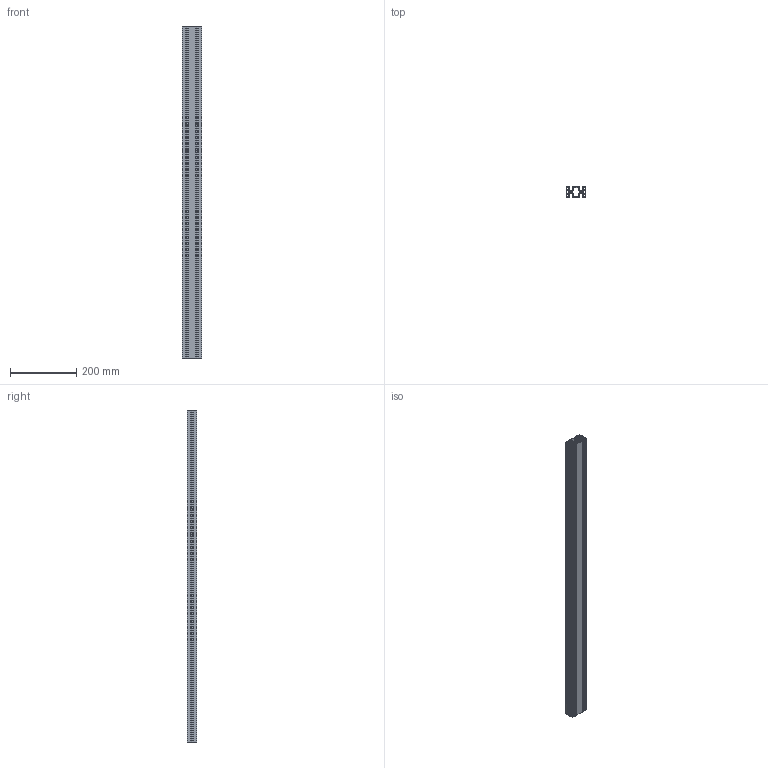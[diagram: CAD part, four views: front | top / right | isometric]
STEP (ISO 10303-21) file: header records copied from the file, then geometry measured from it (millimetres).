
FILE_DESCRIPTION((''),'2;1');
FILE_NAME('\\Dtp_2\share\iriguchi2\M6フレーム\AFS-3060F-6.stp','2014-12-01T09:48:11',('AMS8'),(''),'Autodesk Inventor 2008','Autodesk Inventor 2008','');
FILE_SCHEMA(('AUTOMOTIVE_DESIGN { 1 0 10303 214 1 1 1 1 }'));
Length unit declared in the file: millimetre
Products named in the file (1): Part5
Bounding box: 60 x 30 x 1000 mm (x, y, z)
Volume: 477123.2 mm3; surface area: 636666.9 mm2
Topology: 1 solids, 1 shells, 412 faces, 1230 edges, 820 vertices
Faces by surface type: cylinder 230, plane 182
Full cylindrical faces by diameter (mm): 5 x2
Entity records: 14058 total; most frequent: DIRECTION 2514, CARTESIAN_POINT 2461, ORIENTED_EDGE 2456, EDGE_CURVE 1228, AXIS2_PLACEMENT_3D 873, VERTEX_POINT 820, VECTOR 768, LINE 768
